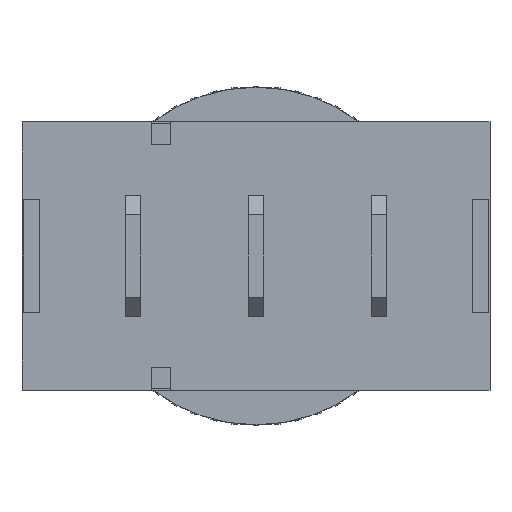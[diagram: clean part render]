
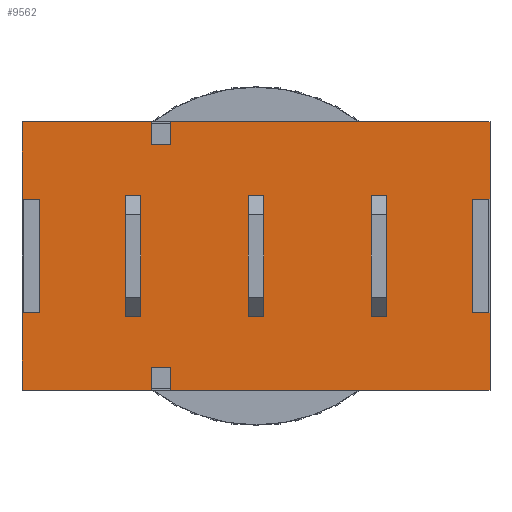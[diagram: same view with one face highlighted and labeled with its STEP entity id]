
A CAD part, front view. The second image highlights one B-rep face of the part: STEP entity #9562.
In plain terms, the highlighted planar face has unit normal (0, -1, 0).
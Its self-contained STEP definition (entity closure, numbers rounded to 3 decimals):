
#140=FACE_BOUND('',#1112,.T.);
#141=FACE_BOUND('',#1113,.T.);
#142=FACE_BOUND('',#1114,.T.);
#520=FACE_OUTER_BOUND('',#1111,.T.);
#1111=EDGE_LOOP('',(#6694,#6695,#6696,#6697,#6698,#6699,#6700,#6701,#6702,
#6703,#6704,#6705,#6706,#6707,#6708,#6709,#6710,#6711,#6712,#6713));
#1112=EDGE_LOOP('',(#6714,#6715,#6716,#6717));
#1113=EDGE_LOOP('',(#6718,#6719,#6720,#6721));
#1114=EDGE_LOOP('',(#6722,#6723,#6724,#6725));
#1635=LINE('',#13837,#2777);
#1640=LINE('',#13848,#2782);
#1645=LINE('',#13859,#2787);
#1720=LINE('',#14637,#2862);
#1723=LINE('',#14643,#2865);
#1742=LINE('',#14682,#2884);
#1764=LINE('',#14725,#2906);
#1772=LINE('',#14739,#2914);
#1774=LINE('',#14743,#2916);
#1775=LINE('',#14746,#2917);
#1782=LINE('',#14760,#2924);
#1784=LINE('',#14764,#2926);
#1786=LINE('',#14768,#2928);
#1788=LINE('',#14772,#2930);
#1791=LINE('',#14778,#2933);
#1794=LINE('',#14783,#2936);
#1796=LINE('',#14788,#2938);
#1798=LINE('',#14792,#2940);
#1800=LINE('',#14795,#2942);
#1801=LINE('',#14798,#2943);
#1804=LINE('',#14804,#2946);
#1807=LINE('',#14809,#2949);
#1809=LINE('',#14813,#2951);
#1810=LINE('',#14816,#2952);
#1811=LINE('',#14817,#2953);
#1812=LINE('',#14818,#2954);
#1813=LINE('',#14820,#2955);
#1814=LINE('',#14822,#2956);
#1815=LINE('',#14823,#2957);
#1816=LINE('',#14825,#2958);
#1817=LINE('',#14827,#2959);
#1818=LINE('',#14828,#2960);
#2777=VECTOR('',#10984,10.);
#2782=VECTOR('',#10995,10.);
#2787=VECTOR('',#11006,10.);
#2862=VECTOR('',#11409,10.);
#2865=VECTOR('',#11414,10.);
#2884=VECTOR('',#11443,10.);
#2906=VECTOR('',#11477,10.);
#2914=VECTOR('',#11491,10.);
#2916=VECTOR('',#11495,10.);
#2917=VECTOR('',#11498,10.);
#2924=VECTOR('',#11509,10.);
#2926=VECTOR('',#11513,10.);
#2928=VECTOR('',#11517,10.);
#2930=VECTOR('',#11521,10.);
#2933=VECTOR('',#11526,10.);
#2936=VECTOR('',#11531,10.);
#2938=VECTOR('',#11537,10.);
#2940=VECTOR('',#11541,10.);
#2942=VECTOR('',#11545,10.);
#2943=VECTOR('',#11548,10.);
#2946=VECTOR('',#11553,10.);
#2949=VECTOR('',#11558,10.);
#2951=VECTOR('',#11564,10.);
#2952=VECTOR('',#11565,10.);
#2953=VECTOR('',#11566,10.);
#2954=VECTOR('',#11567,10.);
#2955=VECTOR('',#11568,10.);
#2956=VECTOR('',#11569,10.);
#2957=VECTOR('',#11570,10.);
#2958=VECTOR('',#11571,10.);
#2959=VECTOR('',#11572,10.);
#2960=VECTOR('',#11573,10.);
#3908=VERTEX_POINT('',#13834);
#3909=VERTEX_POINT('',#13836);
#3911=VERTEX_POINT('',#13845);
#3912=VERTEX_POINT('',#13847);
#3914=VERTEX_POINT('',#13856);
#3915=VERTEX_POINT('',#13858);
#4060=VERTEX_POINT('',#14634);
#4061=VERTEX_POINT('',#14636);
#4062=VERTEX_POINT('',#14640);
#4063=VERTEX_POINT('',#14642);
#4077=VERTEX_POINT('',#14679);
#4078=VERTEX_POINT('',#14681);
#4092=VERTEX_POINT('',#14722);
#4093=VERTEX_POINT('',#14724);
#4096=VERTEX_POINT('',#14737);
#4097=VERTEX_POINT('',#14741);
#4098=VERTEX_POINT('',#14745);
#4103=VERTEX_POINT('',#14759);
#4104=VERTEX_POINT('',#14763);
#4105=VERTEX_POINT('',#14767);
#4106=VERTEX_POINT('',#14771);
#4108=VERTEX_POINT('',#14777);
#4110=VERTEX_POINT('',#14787);
#4111=VERTEX_POINT('',#14791);
#4112=VERTEX_POINT('',#14797);
#4114=VERTEX_POINT('',#14803);
#4116=VERTEX_POINT('',#14814);
#4117=VERTEX_POINT('',#14815);
#4118=VERTEX_POINT('',#14819);
#4119=VERTEX_POINT('',#14821);
#4120=VERTEX_POINT('',#14824);
#4121=VERTEX_POINT('',#14826);
#4725=EDGE_CURVE('',#3909,#3908,#1635,.T.);
#4731=EDGE_CURVE('',#3912,#3911,#1640,.T.);
#4737=EDGE_CURVE('',#3915,#3914,#1645,.T.);
#4939=EDGE_CURVE('',#4060,#4061,#1720,.T.);
#4942=EDGE_CURVE('',#4062,#4063,#1723,.T.);
#4961=EDGE_CURVE('',#4078,#4077,#1742,.T.);
#4983=EDGE_CURVE('',#4093,#4092,#1764,.T.);
#4991=EDGE_CURVE('',#4077,#4096,#1772,.T.);
#4993=EDGE_CURVE('',#4097,#4092,#1774,.T.);
#4994=EDGE_CURVE('',#4061,#4098,#1775,.T.);
#5001=EDGE_CURVE('',#4103,#4078,#1782,.T.);
#5003=EDGE_CURVE('',#4104,#4103,#1784,.T.);
#5005=EDGE_CURVE('',#4105,#4104,#1786,.T.);
#5007=EDGE_CURVE('',#4106,#4098,#1788,.T.);
#5010=EDGE_CURVE('',#4108,#4106,#1791,.T.);
#5013=EDGE_CURVE('',#4097,#4108,#1794,.T.);
#5015=EDGE_CURVE('',#4110,#4093,#1796,.T.);
#5017=EDGE_CURVE('',#4111,#4110,#1798,.T.);
#5019=EDGE_CURVE('',#4096,#4111,#1800,.T.);
#5020=EDGE_CURVE('',#4112,#4063,#1801,.T.);
#5023=EDGE_CURVE('',#4114,#4112,#1804,.T.);
#5026=EDGE_CURVE('',#4060,#4114,#1807,.T.);
#5028=EDGE_CURVE('',#4062,#4105,#1809,.T.);
#5029=EDGE_CURVE('',#4116,#4117,#1810,.T.);
#5030=EDGE_CURVE('',#4117,#3915,#1811,.T.);
#5031=EDGE_CURVE('',#3914,#4116,#1812,.T.);
#5032=EDGE_CURVE('',#3911,#4118,#1813,.T.);
#5033=EDGE_CURVE('',#4118,#4119,#1814,.T.);
#5034=EDGE_CURVE('',#4119,#3912,#1815,.T.);
#5035=EDGE_CURVE('',#3908,#4120,#1816,.T.);
#5036=EDGE_CURVE('',#4120,#4121,#1817,.T.);
#5037=EDGE_CURVE('',#4121,#3909,#1818,.T.);
#6694=ORIENTED_EDGE('',*,*,#5005,.T.);
#6695=ORIENTED_EDGE('',*,*,#5003,.T.);
#6696=ORIENTED_EDGE('',*,*,#5001,.T.);
#6697=ORIENTED_EDGE('',*,*,#4961,.T.);
#6698=ORIENTED_EDGE('',*,*,#4991,.T.);
#6699=ORIENTED_EDGE('',*,*,#5019,.T.);
#6700=ORIENTED_EDGE('',*,*,#5017,.T.);
#6701=ORIENTED_EDGE('',*,*,#5015,.T.);
#6702=ORIENTED_EDGE('',*,*,#4983,.T.);
#6703=ORIENTED_EDGE('',*,*,#4993,.F.);
#6704=ORIENTED_EDGE('',*,*,#5013,.T.);
#6705=ORIENTED_EDGE('',*,*,#5010,.T.);
#6706=ORIENTED_EDGE('',*,*,#5007,.T.);
#6707=ORIENTED_EDGE('',*,*,#4994,.F.);
#6708=ORIENTED_EDGE('',*,*,#4939,.F.);
#6709=ORIENTED_EDGE('',*,*,#5026,.T.);
#6710=ORIENTED_EDGE('',*,*,#5023,.T.);
#6711=ORIENTED_EDGE('',*,*,#5020,.T.);
#6712=ORIENTED_EDGE('',*,*,#4942,.F.);
#6713=ORIENTED_EDGE('',*,*,#5028,.T.);
#6714=ORIENTED_EDGE('',*,*,#5029,.T.);
#6715=ORIENTED_EDGE('',*,*,#5030,.T.);
#6716=ORIENTED_EDGE('',*,*,#4737,.T.);
#6717=ORIENTED_EDGE('',*,*,#5031,.T.);
#6718=ORIENTED_EDGE('',*,*,#4731,.T.);
#6719=ORIENTED_EDGE('',*,*,#5032,.T.);
#6720=ORIENTED_EDGE('',*,*,#5033,.T.);
#6721=ORIENTED_EDGE('',*,*,#5034,.T.);
#6722=ORIENTED_EDGE('',*,*,#4725,.T.);
#6723=ORIENTED_EDGE('',*,*,#5035,.T.);
#6724=ORIENTED_EDGE('',*,*,#5036,.T.);
#6725=ORIENTED_EDGE('',*,*,#5037,.T.);
#9032=PLANE('',#10272);
#9562=ADVANCED_FACE('',(#520,#140,#141,#142),#9032,.T.);
#10272=AXIS2_PLACEMENT_3D('',#14812,#11562,#11563);
#10984=DIRECTION('',(0.,0.,1.));
#10995=DIRECTION('',(0.,0.,1.));
#11006=DIRECTION('',(0.,0.,1.));
#11409=DIRECTION('',(0.,0.,1.));
#11414=DIRECTION('',(0.,0.,1.));
#11443=DIRECTION('',(1.,0.,0.));
#11477=DIRECTION('',(0.,0.,1.));
#11491=DIRECTION('',(0.,0.,1.));
#11495=DIRECTION('',(1.,0.,0.));
#11498=DIRECTION('',(1.,0.,0.));
#11509=DIRECTION('',(0.,0.,-1.));
#11513=DIRECTION('',(1.,0.,0.));
#11517=DIRECTION('',(0.,0.,1.));
#11521=DIRECTION('',(0.,0.,1.));
#11526=DIRECTION('',(-1.,0.,0.));
#11531=DIRECTION('',(0.,0.,-1.));
#11537=DIRECTION('',(1.,0.,0.));
#11541=DIRECTION('',(0.,0.,1.));
#11545=DIRECTION('',(-1.,0.,0.));
#11548=DIRECTION('',(-1.,0.,0.));
#11553=DIRECTION('',(0.,0.,-1.));
#11558=DIRECTION('',(1.,0.,0.));
#11562=DIRECTION('center_axis',(0.,-1.,0.));
#11563=DIRECTION('ref_axis',(1.,0.,0.));
#11564=DIRECTION('',(1.,0.,0.));
#11565=DIRECTION('',(0.,0.,-1.));
#11566=DIRECTION('',(-1.,0.,0.));
#11567=DIRECTION('',(1.,0.,0.));
#11568=DIRECTION('',(1.,0.,0.));
#11569=DIRECTION('',(0.,0.,-1.));
#11570=DIRECTION('',(-1.,0.,0.));
#11571=DIRECTION('',(1.,0.,0.));
#11572=DIRECTION('',(0.,0.,-1.));
#11573=DIRECTION('',(-1.,0.,0.));
#13834=CARTESIAN_POINT('',(18.2,0.,10.15));
#13836=CARTESIAN_POINT('',(18.2,0.,3.85));
#13837=CARTESIAN_POINT('',(18.2,0.,5.075));
#13845=CARTESIAN_POINT('',(11.8,0.,10.15));
#13847=CARTESIAN_POINT('',(11.8,0.,3.85));
#13848=CARTESIAN_POINT('',(11.8,0.,5.075));
#13856=CARTESIAN_POINT('',(5.4,0.,10.15));
#13858=CARTESIAN_POINT('',(5.4,0.,3.85));
#13859=CARTESIAN_POINT('',(5.4,0.,5.075));
#14634=CARTESIAN_POINT('',(0.,0.,9.95));
#14636=CARTESIAN_POINT('',(0.,0.,14.));
#14637=CARTESIAN_POINT('',(0.,0.,0.));
#14640=CARTESIAN_POINT('',(0.,0.,0.));
#14642=CARTESIAN_POINT('',(0.,0.,4.05));
#14643=CARTESIAN_POINT('',(0.,0.,0.));
#14679=CARTESIAN_POINT('',(24.4,0.,0.));
#14681=CARTESIAN_POINT('',(7.75,0.,0.));
#14682=CARTESIAN_POINT('',(0.,0.,0.));
#14722=CARTESIAN_POINT('',(24.4,0.,14.));
#14724=CARTESIAN_POINT('',(24.4,0.,9.95));
#14725=CARTESIAN_POINT('',(24.4,0.,0.));
#14737=CARTESIAN_POINT('',(24.4,0.,4.05));
#14739=CARTESIAN_POINT('',(24.4,0.,0.));
#14741=CARTESIAN_POINT('',(7.75,0.,14.));
#14743=CARTESIAN_POINT('',(0.,0.,14.));
#14745=CARTESIAN_POINT('',(6.75,0.,14.));
#14746=CARTESIAN_POINT('',(0.,0.,14.));
#14759=CARTESIAN_POINT('',(7.75,0.,1.2));
#14760=CARTESIAN_POINT('',(7.75,0.,0.6));
#14763=CARTESIAN_POINT('',(6.75,0.,1.2));
#14764=CARTESIAN_POINT('',(3.375,0.,1.2));
#14767=CARTESIAN_POINT('',(6.75,0.,0.));
#14768=CARTESIAN_POINT('',(6.75,0.,0.));
#14771=CARTESIAN_POINT('',(6.75,0.,12.8));
#14772=CARTESIAN_POINT('',(6.75,0.,6.4));
#14777=CARTESIAN_POINT('',(7.75,0.,12.8));
#14778=CARTESIAN_POINT('',(3.875,0.,12.8));
#14783=CARTESIAN_POINT('',(7.75,0.,7.));
#14787=CARTESIAN_POINT('',(23.5,0.,9.95));
#14788=CARTESIAN_POINT('',(11.75,0.,9.95));
#14791=CARTESIAN_POINT('',(23.5,0.,4.05));
#14792=CARTESIAN_POINT('',(23.5,0.,2.025));
#14795=CARTESIAN_POINT('',(12.2,0.,4.05));
#14797=CARTESIAN_POINT('',(0.9,0.,4.05));
#14798=CARTESIAN_POINT('',(0.45,0.,4.05));
#14803=CARTESIAN_POINT('',(0.9,0.,9.95));
#14804=CARTESIAN_POINT('',(0.9,0.,4.975));
#14809=CARTESIAN_POINT('',(0.,0.,9.95));
#14812=CARTESIAN_POINT('Origin',(0.,0.,0.));
#14813=CARTESIAN_POINT('',(0.,0.,0.));
#14814=CARTESIAN_POINT('',(6.2,0.,10.15));
#14815=CARTESIAN_POINT('',(6.2,0.,3.85));
#14816=CARTESIAN_POINT('',(6.2,0.,1.925));
#14817=CARTESIAN_POINT('',(2.7,0.,3.85));
#14818=CARTESIAN_POINT('',(3.1,0.,10.15));
#14819=CARTESIAN_POINT('',(12.6,0.,10.15));
#14820=CARTESIAN_POINT('',(6.3,0.,10.15));
#14821=CARTESIAN_POINT('',(12.6,0.,3.85));
#14822=CARTESIAN_POINT('',(12.6,0.,1.925));
#14823=CARTESIAN_POINT('',(5.9,0.,3.85));
#14824=CARTESIAN_POINT('',(19.,0.,10.15));
#14825=CARTESIAN_POINT('',(9.5,0.,10.15));
#14826=CARTESIAN_POINT('',(19.,0.,3.85));
#14827=CARTESIAN_POINT('',(19.,0.,1.925));
#14828=CARTESIAN_POINT('',(9.1,0.,3.85));
